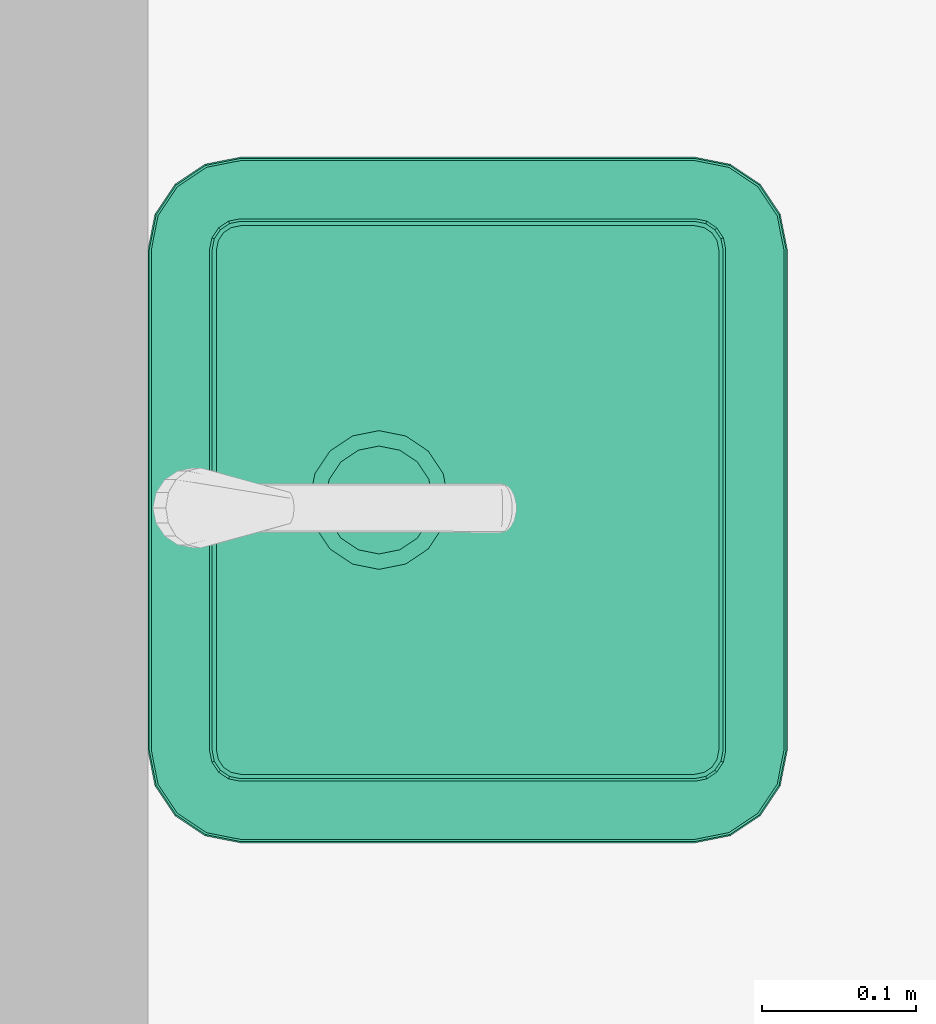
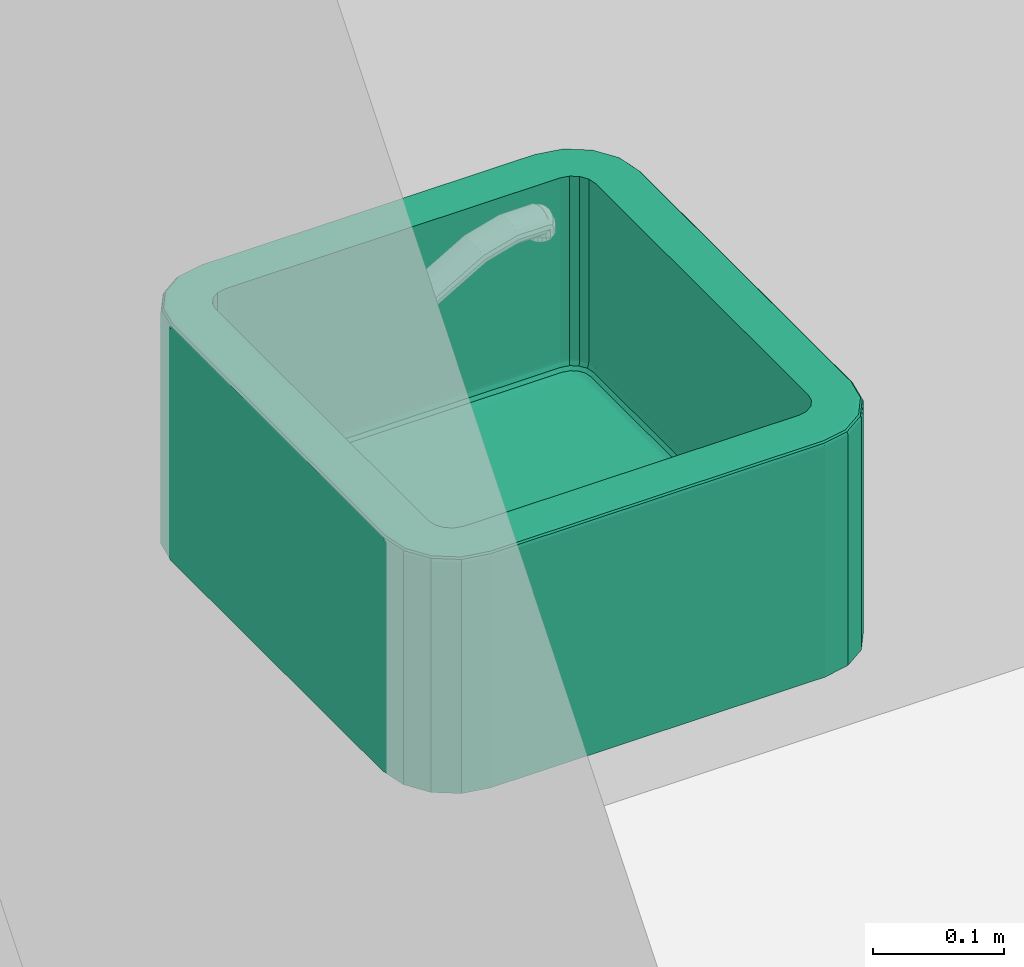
# One storey, part 76 of 127: 1 flow terminal.
"""IFC2X3 building model written with IfcOpenShell, lengths in millimetres."""

from ifc_helpers import new_model, entity, si_unit, converted_unit, derived_unit, money_unit, direction, frame, origin_with_axes, place, context, subcontext, project, spatial, faceted_brep, source, transform, mapped, type_object, element, save


model = new_model("IFC2X3")

# Units and contexts
model_context = context("Model", 3, precision=1e-05, world=origin_with_axes(), true_north=direction((0.0, 1.0)))
body_context = subcontext(model_context, "Body", "Model", "MODEL_VIEW")
ifc_project = project(units=[si_unit("LENGTHUNIT", "METRE", prefix="MILLI"), si_unit("AREAUNIT", "SQUARE_METRE"), si_unit("VOLUMEUNIT", "CUBIC_METRE"), converted_unit("PLANEANGLEUNIT", "DEGREE", entity("IfcPlaneAngleMeasure", 0.0174532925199), si_unit("PLANEANGLEUNIT", "RADIAN"), dimensions=[0, 0, 0, 0, 0, 0, 0]), si_unit("SOLIDANGLEUNIT", "STERADIAN"), money_unit("EUR"), converted_unit("TIMEUNIT", "Year", entity("IfcTimeMeasure", 31556926.0), si_unit("TIMEUNIT", "SECOND"), dimensions=[0, 0, 1, 0, 0, 0, 0]), si_unit("MASSUNIT", "GRAM", prefix="KILO"), si_unit("THERMODYNAMICTEMPERATUREUNIT", "DEGREE_CELSIUS"), si_unit("LUMINOUSINTENSITYUNIT", "LUMEN"), si_unit("ENERGYUNIT", "JOULE", prefix="MEGA"), derived_unit("THERMALCONDUCTANCEUNIT", [(si_unit("POWERUNIT", "WATT"), 1), (si_unit("LENGTHUNIT", "METRE"), -1), (si_unit("THERMODYNAMICTEMPERATUREUNIT", "KELVIN"), -1)]), derived_unit("SPECIFICHEATCAPACITYUNIT", [(si_unit("ENERGYUNIT", "JOULE"), 1), (si_unit("MASSUNIT", "GRAM", prefix="KILO"), -1), (si_unit("THERMODYNAMICTEMPERATUREUNIT", "KELVIN"), -1)]), derived_unit("MASSDENSITYUNIT", [(si_unit("MASSUNIT", "GRAM", prefix="KILO"), 1), (si_unit("VOLUMEUNIT", "CUBIC_METRE"), -1)])], contexts=[model_context])

# Site, building, storey
site_placement = place(None, origin_with_axes())
site = spatial("IfcSite", under=ifc_project, at=site_placement, Name="Site", CompositionType="ELEMENT")
building_placement = place(site_placement, origin_with_axes())
building = spatial("IfcBuilding", under=site, at=building_placement, Name="Building", CompositionType="ELEMENT")
storey_placement = place(building_placement, origin_with_axes())
storey = spatial("IfcBuildingStorey", under=building, at=storey_placement, Name="1 KORRUS", CompositionType="ELEMENT", Elevation=0.0)

# Flow terminal
sanitary_terminal_type = type_object("IfcSanitaryTerminalType", Name="Sink Belfast 22", PredefinedType="NOTDEFINED")
shared_shape = source(origin_with_axes(), body_context, "Body", "Brep", [
    faceted_brep([(-21.1783900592, 393.821609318, 899.999999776), (-38.9898958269, 405.72287775, 899.999999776), (-60.4924568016, 410.000002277, 899.999999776), (-222.499999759, 410.000002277, 899.999999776), (-384.507543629, 410.000002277, 899.999999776), (-406.010103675, 405.722877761, 899.999999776), (-423.82160946, 393.821609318, 899.999999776), (-435.72287713, 376.010103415, 899.999999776), (-440.000002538, 354.50754327, 899.999999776), (-440.000002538, 60.4924569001, 899.999999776), (-435.722877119, 38.9898958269, 899.999999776), (-423.821609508, 21.1783900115, 899.999999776), (-406.010103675, 9.27712238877, 899.999999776), (-384.507543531, 4.99999698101, 899.999999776), (-60.4924569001, 4.99999698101, 899.999999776), (-38.9898958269, 9.27712239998, 899.999999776), (-21.1783900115, 21.1783900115, 899.999999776), (-9.27712239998, 38.9898958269, 899.999999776), (-4.99999698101, 60.4924569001, 899.999999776), (-4.99999698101, 354.50754327, 899.999999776), (-9.27712238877, 376.010103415, 899.999999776), (-399.142135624, 369.142135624, 900.0), (-392.653668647, 373.47759065, 900.0), (-385.0, 375.0, 900.0), (-222.5, 375.0, 900.0), (-60.0, 375.0, 900.0), (-52.3463313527, 373.47759065, 900.0), (-45.8578643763, 369.142135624, 900.0), (-41.5224093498, 362.653668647, 900.0), (-40.0, 355.0, 900.0), (-40.0, 60.0, 900.0), (-41.5224093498, 52.3463313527, 900.0), (-45.8578643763, 45.8578643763, 900.0), (-52.3463313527, 41.5224093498, 900.0), (-60.0, 40.0, 900.0), (-385.0, 40.0, 900.0), (-392.653668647, 41.5224093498, 900.0), (-399.142135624, 45.8578643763, 900.0), (-403.47759065, 52.3463313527, 900.0), (-405.0, 60.0, 900.0), (-405.0, 355.0, 900.0), (-403.47759065, 362.653668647, 900.0), (-20.4751302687, 394.524869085, 899.903926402), (-38.6092943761, 406.641730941, 899.903926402), (-60.3963834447, 410.975451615, 899.903926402), (-222.499999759, 410.975451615, 899.903926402), (-384.60361699, 410.975451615, 899.903926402), (-406.390705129, 406.64173095, 899.903926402), (-424.52486925, 394.524869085, 899.903926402), (-436.641730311, 376.390704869, 899.903926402), (-440.975451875, 354.60361665, 899.903926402), (-440.975451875, 60.396383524, 899.903926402), (-436.641730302, 38.6092943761, 899.903926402), (-424.524869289, 20.4751302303, 899.903926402), (-406.390705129, 8.3582692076, 899.903926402), (-384.603616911, 4.02454764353, 899.903926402), (-60.396383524, 4.02454764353, 899.903926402), (-38.6092943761, 8.35826921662, 899.903926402), (-20.4751302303, 20.4751302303, 899.903926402), (-8.35826921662, 38.6092943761, 899.903926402), (-4.02454764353, 60.396383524, 899.903926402), (-4.02454764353, 354.60361665, 899.903926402), (-8.3582692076, 376.390704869, 899.903926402), (-399.142135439, 369.142135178, 730.0), (-392.653668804, 373.477590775, 730.0), (-385.000000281, 374.999999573, 730.0), (-222.499999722, 374.999999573, 730.0), (-60.0000000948, 374.999999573, 730.0), (-52.3463315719, 373.477590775, 730.0), (-45.8578640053, 369.142135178, 730.0), (-41.5224093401, 362.653668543, 730.0), (-39.9999996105, 355.00000002, 730.0), (-39.9999996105, 60.0000000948, 730.0), (-41.5224093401, 52.3463315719, 730.0), (-45.8578640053, 45.8578640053, 730.0), (-52.3463315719, 41.5224093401, 730.0), (-60.0000000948, 39.9999996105, 730.0), (-385.000000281, 39.9999996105, 730.0), (-392.653668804, 41.5224093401, 730.0), (-399.142135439, 45.8578640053, 730.0), (-403.477591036, 52.3463315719, 730.0), (-404.999999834, 60.0000000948, 730.0), (-404.999999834, 355.00000002, 730.0), (-403.477591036, 362.653668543, 730.0), (-19.175673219, 395.824326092, 899.157348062), (-37.9060332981, 408.339553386, 899.157348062), (-60.2188627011, 412.777850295, 899.157348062), (-222.499999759, 412.777850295, 899.157348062), (-384.781137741, 412.777850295, 899.157348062), (-407.093966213, 408.339553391, 899.157348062), (-425.8243263, 395.824326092, 899.157348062), (-438.339552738, 377.093965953, 899.157348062), (-442.777850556, 354.781137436, 899.157348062), (-442.777850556, 60.2188627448, 899.157348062), (-438.339552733, 37.9060332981, 899.157348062), (-425.824326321, 19.1756731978, 899.157348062), (-407.093966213, 6.66044678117, 899.157348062), (-384.781137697, 2.22214896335, 899.157348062), (-60.2188627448, 2.22214896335, 899.157348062), (-37.9060332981, 6.66044678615, 899.157348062), (-19.1756731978, 19.1756731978, 899.157348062), (-6.66044678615, 37.9060332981, 899.157348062), (-2.22214896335, 60.2188627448, 899.157348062), (-2.22214896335, 354.781137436, 899.157348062), (-6.66044678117, 377.093965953, 899.157348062), (-399.003605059, 369.003604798, 728.04909678), (-392.578696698, 373.296592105, 728.04909678), (-384.981075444, 374.807852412, 728.04909678), (-222.499999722, 374.807852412, 728.04909678), (-60.0189249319, 374.807852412, 728.04909678), (-52.4213036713, 373.296592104, 728.04909678), (-45.9963943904, 369.003604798, 728.04909678), (-41.7034080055, 362.578696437, 728.04909678), (-40.1921467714, 354.981075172, 728.04909678), (-40.1921467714, 60.0189249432, 728.04909678), (-41.7034080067, 52.4213036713, 728.04909678), (-45.9963943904, 45.9963943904, 728.04909678), (-52.4213036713, 41.7034080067, 728.04909678), (-60.0189249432, 40.1921467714, 728.04909678), (-384.981075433, 40.1921467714, 728.04909678), (-392.578696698, 41.7034080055, 728.04909678), (-399.003605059, 45.9963943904, 728.04909678), (-403.296592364, 52.4213036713, 728.04909678), (-404.807852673, 60.0189249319, 728.04909678), (-404.807852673, 354.981075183, 728.04909678), (-403.296592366, 362.578696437, 728.04909678), (-18.1811110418, 396.818888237, 897.777851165), (-37.3677801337, 409.639011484, 897.777851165), (-60.0829940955, 414.157347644, 897.777851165), (-222.499999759, 414.157347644, 897.777851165), (-384.917006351, 414.157347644, 897.777851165), (-407.632219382, 409.639011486, 897.777851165), (-426.818888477, 396.818888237, 897.777851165), (-439.639010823, 377.632219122, 897.777851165), (-444.157347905, 354.917006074, 897.777851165), (-444.157347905, 60.0829941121, 897.777851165), (-439.639010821, 37.3677801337, 897.777851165), (-426.818888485, 18.1811110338, 897.777851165), (-407.632219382, 5.36098869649, 897.777851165), (-384.917006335, 0.842651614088, 897.777851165), (-60.0829941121, 0.842651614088, 897.777851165), (-37.3677801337, 5.36098869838, 897.777851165), (-18.1811110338, 18.1811110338, 897.777851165), (-5.36098869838, 37.3677801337, 897.777851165), (-0.842651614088, 60.0829941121, 897.777851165), (-0.842651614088, 354.917006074, 897.777851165), (-5.36098869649, 377.632219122, 897.777851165), (-397.927098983, 367.927098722, 724.44429767), (-391.996095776, 371.890069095, 724.44429767), (-384.834012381, 373.314695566, 724.44429767), (-222.499999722, 373.314695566, 724.44429767), (-60.1659879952, 373.314695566, 724.44429767), (-53.0039045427, 371.890069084, 724.44429767), (-47.0729005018, 367.927098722, 724.44429767), (-43.1099309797, 361.996095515, 724.44429767), (-41.6853036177, 354.83401202, 724.44429767), (-41.6853036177, 60.1659880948, 724.44429767), (-43.1099309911, 53.0039045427, 724.44429767), (-47.0729005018, 47.0729005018, 724.44429767), (-53.0039045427, 43.1099309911, 724.44429767), (-60.1659880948, 41.6853036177, 724.44429767), (-384.834012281, 41.6853036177, 724.44429767), (-391.996095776, 43.1099309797, 724.44429767), (-397.927098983, 47.0729005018, 724.44429767), (-401.890069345, 53.0039045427, 724.44429767), (-403.314695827, 60.1659879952, 724.44429767), (-403.314695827, 354.83401212, 724.44429767), (-401.890069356, 361.996095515, 724.44429767), (-17.6428579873, 397.357141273, 895.97545161), (-37.0764796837, 410.342272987, 895.97545161), (-60.0094625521, 414.903926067, 895.97545161), (-222.499999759, 414.903926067, 895.97545161), (-384.990537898, 414.903926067, 895.97545161), (-407.923519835, 410.342272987, 895.97545161), (-427.357141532, 397.357141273, 895.97545161), (-440.342272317, 377.923519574, 895.97545161), (-444.903926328, 354.990537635, 895.97545161), (-444.903926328, 60.009462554, 895.97545161), (-440.342272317, 37.0764796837, 895.97545161), (-427.357141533, 17.6428579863, 895.97545161), (-407.923519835, 4.65772720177, 895.97545161), (-384.990537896, 0.0960731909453, 895.97545161), (-60.009462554, 0.0960731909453, 895.97545161), (-37.0764796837, 4.65772720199, 895.97545161), (-17.6428579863, 17.6428579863, 895.97545161), (-4.65772720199, 37.0764796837, 895.97545161), (-0.0960731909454, 60.009462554, 895.97545161), (-0.0960731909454, 354.990537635, 895.97545161), (-4.65772720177, 377.923519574, 895.97545161), (-395.937975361, 365.9379751, 721.685303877), (-390.919589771, 369.291153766, 721.685303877), (-384.562275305, 370.555701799, 721.685303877), (-222.499999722, 370.555701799, 721.685303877), (-60.437725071, 370.555701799, 721.685303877), (-54.0804104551, 369.291153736, 721.685303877), (-49.062024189, 365.9379751, 721.685303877), (-45.7088462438, 360.91958951, 721.685303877), (-44.4442973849, 354.562274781, 721.685303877), (-44.4442973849, 60.4377253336, 721.685303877), (-45.7088462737, 54.0804104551, 721.685303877), (-49.062024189, 49.062024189, 721.685303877), (-54.0804104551, 45.7088462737, 721.685303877), (-60.4377253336, 44.4442973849, 721.685303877), (-384.562275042, 44.4442973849, 721.685303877), (-390.919589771, 45.7088462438, 721.685303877), (-395.937975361, 49.062024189, 721.685303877), (-399.291153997, 54.0804104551, 721.685303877), (-400.55570206, 60.437725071, 721.685303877), (-400.55570206, 354.562275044, 721.685303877), (-399.291154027, 360.91958951, 721.685303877), (-17.5735927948, 397.426406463, 895.0), (-37.0389936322, 410.432772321, 895.0), (-60.000000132, 414.999999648, 895.0), (-222.499999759, 414.999999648, 895.0), (-385.000000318, 414.999999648, 895.0), (-407.961005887, 410.432772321, 895.0), (-427.426406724, 397.426406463, 895.0), (-440.432771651, 377.961005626, 895.0), (-444.999999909, 355.000000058, 895.0), (-444.999999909, 60.000000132, 895.0), (-440.432771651, 37.0389936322, 895.0), (-427.426406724, 17.5735927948, 895.0), (-407.961005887, 4.56722786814, 895.0), (-385.000000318, -3.89516419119e-07, 895.0), (-60.000000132, -3.89516419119e-07, 895.0), (-37.0389936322, 4.56722786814, 895.0), (-17.5735927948, 17.5735927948, 895.0), (-4.56722786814, 37.0389936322, 895.0), (3.89516363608e-07, 60.000000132, 895.0), (3.89516363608e-07, 355.000000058, 895.0), (-4.56722786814, 377.961005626, 895.0), (-393.339059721, 363.33905946, 720.192147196), (-389.513066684, 365.895506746, 720.192147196), (-384.207233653, 366.95090219, 720.192147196), (-222.499999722, 366.95090219, 720.192147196), (-60.7927667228, 366.95090219, 720.192147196), (-55.4869334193, 365.895506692, 720.192147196), (-51.6609399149, 363.33905946, 720.192147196), (-49.104493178, 359.513066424, 720.192147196), (-48.0490969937, 354.207232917, 720.192147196), (-48.0490969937, 60.7927671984, 720.192147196), (-49.1044932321, 55.4869334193, 720.192147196), (-51.6609399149, 51.6609399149, 720.192147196), (-55.4869334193, 49.1044932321, 720.192147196), (-60.7927671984, 48.0490969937, 720.192147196), (-384.207233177, 48.0490969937, 720.192147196), (-389.513066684, 49.104493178, 720.192147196), (-393.339059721, 51.6609399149, 720.192147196), (-395.895506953, 55.4869334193, 720.192147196), (-396.950902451, 60.7927667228, 720.192147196), (-396.950902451, 354.207233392, 720.192147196), (-395.895507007, 359.513066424, 720.192147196), (-17.5735931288, 397.426406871, 680.0), (-37.0389940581, 410.432771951, 680.0), (-60.0, 415.0, 680.0), (-222.5, 415.0, 680.0), (-385.0, 415.0, 680.0), (-407.961005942, 410.432771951, 680.0), (-427.426406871, 397.426406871, 680.0), (-440.432771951, 377.961005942, 680.0), (-445.0, 355.0, 680.0), (-445.0, 60.0, 680.0), (-440.432771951, 37.0389940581, 680.0), (-427.426406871, 17.5735931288, 680.0), (-407.961005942, 4.56722804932, 680.0), (-385.0, 0.0, 680.0), (-60.0, 0.0, 680.0), (-37.0389940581, 4.56722804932, 680.0), (-17.5735931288, 17.5735931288, 680.0), (-4.56722804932, 37.0389940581, 680.0), (0.0, 60.0, 680.0), (0.0, 355.0, 680.0), (-4.56722804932, 377.961005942, 680.0), (-391.932540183, 361.932539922, 720.000000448), (-388.751863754, 364.057800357, 720.000000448), (-384.01508697, 365.000003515, 720.000000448), (-222.499999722, 365.000003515, 720.000000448), (-60.9849134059, 365.000003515, 720.000000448), (-56.2481362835, 364.05780029, 720.000000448), (-53.0674594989, 361.932539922, 720.000000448), (-50.9421995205, 358.751863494, 720.000000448), (-49.9999956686, 354.015086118, 720.000000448), (-49.9999956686, 60.9849139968, 720.000000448), (-50.9421995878, 56.2481362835, 720.000000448), (-53.0674594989, 53.0674594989, 720.000000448), (-56.2481362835, 50.9421995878, 720.000000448), (-60.9849139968, 49.9999956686, 720.000000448), (-384.015086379, 49.9999956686, 720.000000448), (-388.751863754, 50.9421995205, 720.000000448), (-391.932540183, 53.0674594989, 720.000000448), (-394.057800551, 56.2481362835, 720.000000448), (-395.000003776, 60.9849134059, 720.000000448), (-395.000003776, 354.015086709, 720.000000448), (-394.057800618, 358.751863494, 720.000000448), (-267.5, 265.0, 720.0), (-264.074578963, 282.220754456, 720.0), (-254.319805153, 296.819805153, 720.0), (-239.720754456, 306.574578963, 720.0), (-222.5, 310.0, 720.0), (-205.279245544, 306.574578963, 720.0), (-190.680194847, 296.819805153, 720.0), (-180.925421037, 282.220754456, 720.0), (-177.5, 265.0, 720.0), (-180.925421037, 247.779245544, 720.0), (-190.680194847, 233.180194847, 720.0), (-205.279245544, 223.425421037, 720.0), (-222.5, 220.0, 720.0), (-239.720754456, 223.425421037, 720.0), (-254.319805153, 233.180194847, 720.0), (-264.074578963, 247.779245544, 720.0), (-257.5, 265.0, 710.0), (-254.835783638, 278.393920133, 710.0), (-247.248737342, 289.748737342, 710.0), (-235.893920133, 297.335783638, 710.0), (-222.5, 300.0, 710.0), (-209.106079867, 297.335783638, 710.0), (-197.751262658, 289.748737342, 710.0), (-190.164216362, 278.393920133, 710.0), (-187.5, 265.0, 710.0), (-190.164216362, 251.606079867, 710.0), (-197.751262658, 240.251262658, 710.0), (-209.106079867, 232.664216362, 710.0), (-222.5, 230.0, 710.0), (-235.893920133, 232.664216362, 710.0), (-247.248737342, 240.251262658, 710.0), (-254.835783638, 251.606079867, 710.0)], [[[0, 1, 2, 3, 4, 5, 6, 7, 8, 9, 10, 11, 12, 13, 14, 15, 16, 17, 18, 19, 20], [21, 22, 23, 24, 25, 26, 27, 28, 29, 30, 31, 32, 33, 34, 35, 36, 37, 38, 39, 40, 41]], [[1, 0, 42, 43]], [[2, 1, 43, 44]], [[3, 2, 44, 45]], [[4, 3, 45, 46]], [[5, 4, 46, 47]], [[6, 5, 47, 48]], [[7, 6, 48, 49]], [[8, 7, 49, 50]], [[9, 8, 50, 51]], [[10, 9, 51, 52]], [[11, 10, 52, 53]], [[12, 11, 53, 54]], [[13, 12, 54, 55]], [[14, 13, 55, 56]], [[15, 14, 56, 57]], [[16, 15, 57, 58]], [[17, 16, 58, 59]], [[18, 17, 59, 60]], [[19, 18, 60, 61]], [[20, 19, 61, 62]], [[0, 20, 62, 42]], [[21, 63, 64, 22]], [[22, 64, 65, 23]], [[23, 65, 66, 24]], [[24, 66, 67, 25]], [[25, 67, 68, 26]], [[26, 68, 69, 27]], [[27, 69, 70, 28]], [[28, 70, 71, 29]], [[29, 71, 72, 30]], [[30, 72, 73, 31]], [[31, 73, 74, 32]], [[32, 74, 75, 33]], [[33, 75, 76, 34]], [[34, 76, 77, 35]], [[35, 77, 78, 36]], [[36, 78, 79, 37]], [[37, 79, 80, 38]], [[38, 80, 81, 39]], [[39, 81, 82, 40]], [[40, 82, 83, 41]], [[41, 83, 63, 21]], [[43, 42, 84, 85]], [[44, 43, 85, 86]], [[45, 44, 86, 87]], [[46, 45, 87, 88]], [[47, 46, 88, 89]], [[48, 47, 89, 90]], [[49, 48, 90, 91]], [[50, 49, 91, 92]], [[51, 50, 92, 93]], [[52, 51, 93, 94]], [[53, 52, 94, 95]], [[54, 53, 95, 96]], [[55, 54, 96, 97]], [[56, 55, 97, 98]], [[57, 56, 98, 99]], [[58, 57, 99, 100]], [[59, 58, 100, 101]], [[60, 59, 101, 102]], [[61, 60, 102, 103]], [[62, 61, 103, 104]], [[42, 62, 104, 84]], [[63, 105, 106, 64]], [[64, 106, 107, 65]], [[65, 107, 108, 66]], [[66, 108, 109, 67]], [[67, 109, 110, 68]], [[68, 110, 111, 69]], [[69, 111, 112, 70]], [[70, 112, 113, 71]], [[71, 113, 114, 72]], [[72, 114, 115, 73]], [[73, 115, 116, 74]], [[74, 116, 117, 75]], [[75, 117, 118, 76]], [[76, 118, 119, 77]], [[77, 119, 120, 78]], [[78, 120, 121, 79]], [[79, 121, 122, 80]], [[80, 122, 123, 81]], [[81, 123, 124, 82]], [[82, 124, 125, 83]], [[83, 125, 105, 63]], [[85, 84, 126, 127]], [[86, 85, 127, 128]], [[87, 86, 128, 129]], [[88, 87, 129, 130]], [[89, 88, 130, 131]], [[90, 89, 131, 132]], [[91, 90, 132, 133]], [[92, 91, 133, 134]], [[93, 92, 134, 135]], [[94, 93, 135, 136]], [[95, 94, 136, 137]], [[96, 95, 137, 138]], [[97, 96, 138, 139]], [[98, 97, 139, 140]], [[99, 98, 140, 141]], [[100, 99, 141, 142]], [[101, 100, 142, 143]], [[102, 101, 143, 144]], [[103, 102, 144, 145]], [[104, 103, 145, 146]], [[84, 104, 146, 126]], [[105, 147, 148, 106]], [[106, 148, 149, 107]], [[107, 149, 150, 108]], [[108, 150, 151, 109]], [[109, 151, 152, 110]], [[110, 152, 153, 111]], [[111, 153, 154, 112]], [[112, 154, 155, 113]], [[113, 155, 156, 114]], [[114, 156, 157, 115]], [[115, 157, 158, 116]], [[116, 158, 159, 117]], [[117, 159, 160, 118]], [[118, 160, 161, 119]], [[119, 161, 162, 120]], [[120, 162, 163, 121]], [[121, 163, 164, 122]], [[122, 164, 165, 123]], [[123, 165, 166, 124]], [[124, 166, 167, 125]], [[125, 167, 147, 105]], [[127, 126, 168, 169]], [[128, 127, 169, 170]], [[129, 128, 170, 171]], [[130, 129, 171, 172]], [[131, 130, 172, 173]], [[132, 131, 173, 174]], [[133, 132, 174, 175]], [[134, 133, 175, 176]], [[135, 134, 176, 177]], [[136, 135, 177, 178]], [[137, 136, 178, 179]], [[138, 137, 179, 180]], [[139, 138, 180, 181]], [[140, 139, 181, 182]], [[141, 140, 182, 183]], [[142, 141, 183, 184]], [[143, 142, 184, 185]], [[144, 143, 185, 186]], [[145, 144, 186, 187]], [[146, 145, 187, 188]], [[126, 146, 188, 168]], [[147, 189, 190, 148]], [[148, 190, 191, 149]], [[149, 191, 192, 150]], [[150, 192, 193, 151]], [[151, 193, 194, 152]], [[152, 194, 195, 153]], [[153, 195, 196, 154]], [[154, 196, 197, 155]], [[155, 197, 198, 156]], [[156, 198, 199, 157]], [[157, 199, 200, 158]], [[158, 200, 201, 159]], [[159, 201, 202, 160]], [[160, 202, 203, 161]], [[161, 203, 204, 162]], [[162, 204, 205, 163]], [[163, 205, 206, 164]], [[164, 206, 207, 165]], [[165, 207, 208, 166]], [[166, 208, 209, 167]], [[167, 209, 189, 147]], [[169, 168, 210, 211]], [[170, 169, 211, 212]], [[171, 170, 212, 213]], [[172, 171, 213, 214]], [[173, 172, 214, 215]], [[174, 173, 215, 216]], [[175, 174, 216, 217]], [[176, 175, 217, 218]], [[177, 176, 218, 219]], [[178, 177, 219, 220]], [[179, 178, 220, 221]], [[180, 179, 221, 222]], [[181, 180, 222, 223]], [[182, 181, 223, 224]], [[183, 182, 224, 225]], [[184, 183, 225, 226]], [[185, 184, 226, 227]], [[186, 185, 227, 228]], [[187, 186, 228, 229]], [[188, 187, 229, 230]], [[168, 188, 230, 210]], [[189, 231, 232, 190]], [[190, 232, 233, 191]], [[191, 233, 234, 192]], [[192, 234, 235, 193]], [[193, 235, 236, 194]], [[194, 236, 237, 195]], [[195, 237, 238, 196]], [[196, 238, 239, 197]], [[197, 239, 240, 198]], [[198, 240, 241, 199]], [[199, 241, 242, 200]], [[200, 242, 243, 201]], [[201, 243, 244, 202]], [[202, 244, 245, 203]], [[203, 245, 246, 204]], [[204, 246, 247, 205]], [[205, 247, 248, 206]], [[206, 248, 249, 207]], [[207, 249, 250, 208]], [[208, 250, 251, 209]], [[209, 251, 231, 189]], [[211, 210, 252, 253]], [[212, 211, 253, 254]], [[213, 212, 254, 255]], [[214, 213, 255, 256]], [[215, 214, 256, 257]], [[216, 215, 257, 258]], [[217, 216, 258, 259]], [[218, 217, 259, 260]], [[219, 218, 260, 261]], [[220, 219, 261, 262]], [[221, 220, 262, 263]], [[222, 221, 263, 264]], [[223, 222, 264, 265]], [[224, 223, 265, 266]], [[225, 224, 266, 267]], [[226, 225, 267, 268]], [[227, 226, 268, 269]], [[228, 227, 269, 270]], [[229, 228, 270, 271]], [[230, 229, 271, 272]], [[210, 230, 272, 252]], [[231, 273, 274, 232]], [[232, 274, 275, 233]], [[233, 275, 276, 234]], [[234, 276, 277, 235]], [[235, 277, 278, 236]], [[236, 278, 279, 237]], [[237, 279, 280, 238]], [[238, 280, 281, 239]], [[239, 281, 282, 240]], [[240, 282, 283, 241]], [[241, 283, 284, 242]], [[242, 284, 285, 243]], [[243, 285, 286, 244]], [[244, 286, 287, 245]], [[245, 287, 288, 246]], [[246, 288, 289, 247]], [[247, 289, 290, 248]], [[248, 290, 291, 249]], [[249, 291, 292, 250]], [[250, 292, 293, 251]], [[251, 293, 273, 231]], [[268, 267, 266, 265, 264, 263, 262, 261, 260, 259, 258, 257, 256, 255, 254, 253, 252, 272, 271, 270, 269]], [[280, 279, 278, 277, 276, 275, 274, 273, 293, 292, 291, 290, 289, 288, 287, 286, 285, 284, 283, 282, 281], [294, 295, 296, 297, 298, 299, 300, 301, 302, 303, 304, 305, 306, 307, 308, 309]], [[294, 310, 311, 295]], [[295, 311, 312, 296]], [[296, 312, 313, 297]], [[297, 313, 314, 298]], [[298, 314, 315, 299]], [[299, 315, 316, 300]], [[300, 316, 317, 301]], [[301, 317, 318, 302]], [[302, 318, 319, 303]], [[303, 319, 320, 304]], [[304, 320, 321, 305]], [[305, 321, 322, 306]], [[306, 322, 323, 307]], [[307, 323, 324, 308]], [[308, 324, 325, 309]], [[309, 325, 310, 294]], [[315, 314, 313, 312, 311, 310, 325, 324, 323, 322, 321, 320, 319, 318, 317, 316]]]),
    faceted_brep([(-254.835783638, 251.606079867, 710.0), (-257.5, 265.0, 710.0), (-254.835783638, 278.393920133, 710.0), (-247.248737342, 289.748737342, 710.0), (-235.893920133, 297.335783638, 710.0), (-222.5, 300.0, 710.0), (-209.106079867, 297.335783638, 710.0), (-197.751262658, 289.748737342, 710.0), (-190.164216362, 278.393920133, 710.0), (-187.5, 265.0, 710.0), (-190.164216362, 251.606079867, 710.0), (-197.751262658, 240.251262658, 710.0), (-209.106079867, 232.664216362, 710.0), (-222.5, 230.0, 710.0), (-235.893920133, 232.664216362, 710.0), (-247.248737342, 240.251262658, 710.0), (-254.835783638, 251.606079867, 720.0), (-257.5, 265.0, 720.0), (-254.835783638, 278.393920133, 720.0), (-247.248737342, 289.748737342, 720.0), (-235.893920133, 297.335783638, 720.0), (-222.5, 300.0, 720.0), (-209.106079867, 297.335783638, 720.0), (-197.751262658, 289.748737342, 720.0), (-190.164216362, 278.393920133, 720.0), (-187.5, 265.0, 720.0), (-190.164216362, 251.606079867, 720.0), (-197.751262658, 240.251262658, 720.0), (-209.106079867, 232.664216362, 720.0), (-222.5, 230.0, 720.0), (-235.893920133, 232.664216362, 720.0), (-247.248737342, 240.251262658, 720.0)], [[[0, 1, 2, 3, 4, 5, 6, 7, 8, 9, 10, 11, 12, 13, 14, 15]], [[0, 16, 17, 1]], [[1, 17, 18, 2]], [[2, 18, 19, 3]], [[3, 19, 20, 4]], [[4, 20, 21, 5]], [[5, 21, 22, 6]], [[6, 22, 23, 7]], [[7, 23, 24, 8]], [[8, 24, 25, 9]], [[9, 25, 26, 10]], [[10, 26, 27, 11]], [[11, 27, 28, 12]], [[12, 28, 29, 13]], [[13, 29, 30, 14]], [[14, 30, 31, 15]], [[15, 31, 16, 0]], [[16, 31, 30, 29, 28, 27, 26, 25, 24, 23, 22, 21, 20, 19, 18, 17]]]),
])
flow_terminal_placement = place(storey_placement, frame((31568.8006358, 40172.4474818, 143.258080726), z_axis=(0.0, 0.0, 1.0), x_axis=(0.0, 1.0, 0.0)))
element("IfcFlowTerminal", 1, at=flow_terminal_placement, inside=storey, type_object=sanitary_terminal_type, Name="Valamu", context=body_context, shape_type="MappedRepresentation", body=[
    mapped(shared_shape, transform((0.0, 0.0, 0.0))),
])

save(model, "model.ifc")
